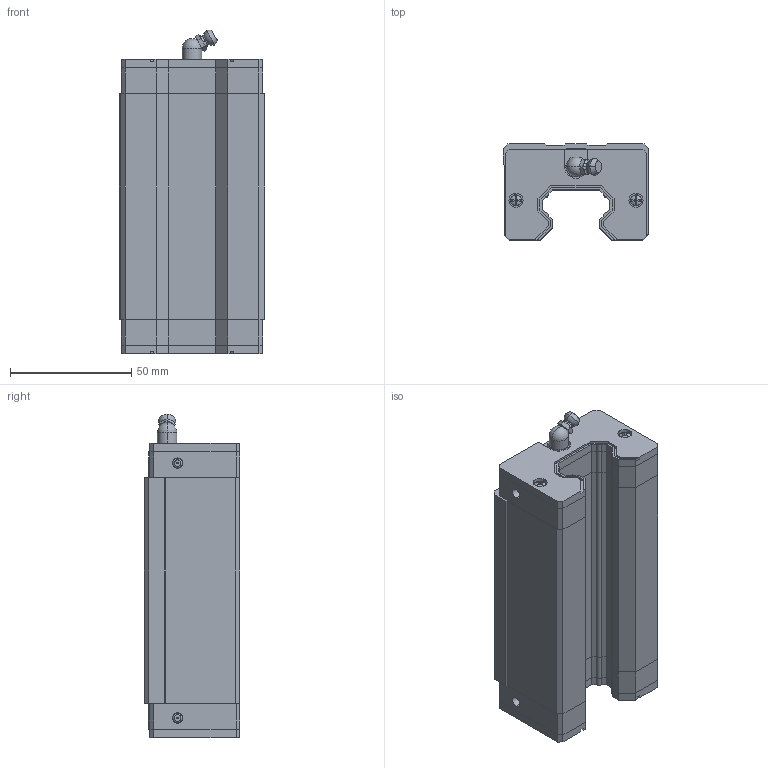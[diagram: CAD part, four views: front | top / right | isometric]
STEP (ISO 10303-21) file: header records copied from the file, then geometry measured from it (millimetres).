
FILE_DESCRIPTION (( 'STEP AP203' ), '1' );
FILE_NAME ('GHH30HA1R200Z0CI_1_GHH30HA^HGH30HA(2)_HGH30HA.STEP', '2021-10-25T04:21:54', ( '微软用户' ), ( '微软中国' ), 'SwSTEP 2.0', 'SolidWorks 2018', '' );
FILE_SCHEMA (( 'CONFIG_CONTROL_DESIGN' ));
Length unit declared in the file: millimetre
Products named in the file (1): GHH30HA1R200Z0CI_1_GHH30HA^HGH30HA(2)_HGH30HA
Bounding box: 60 x 39.5 x 133.4 mm (x, y, z)
Volume: 216610.3 mm3; surface area: 48191 mm2
Topology: 5 solids, 5 shells, 444 faces, 1162 edges, 750 vertices
Faces by surface type: plane 290, cylinder 88, cone 31, torus 25, sphere 10
Entity records: 13974 total; most frequent: CARTESIAN_POINT 2803, DIRECTION 2329, ORIENTED_EDGE 2302, EDGE_CURVE 1151, LINE 791, VECTOR 791, AXIS2_PLACEMENT_3D 769, VERTEX_POINT 749
